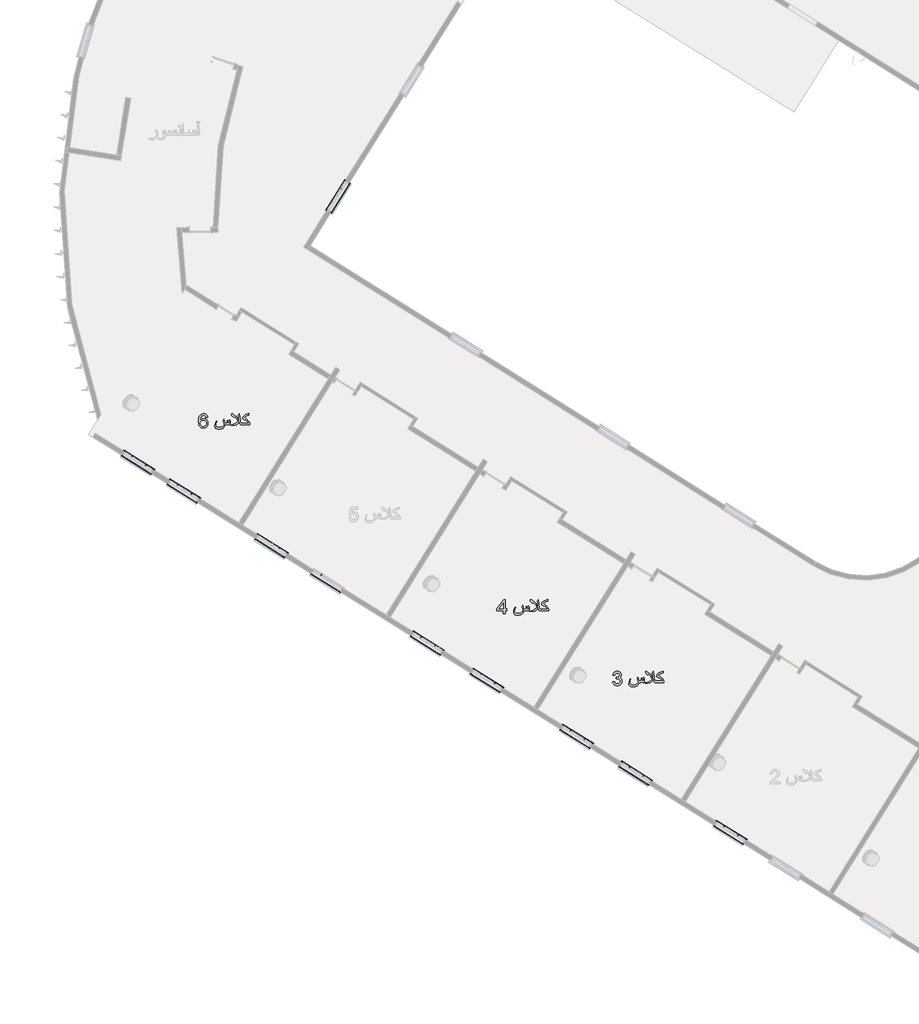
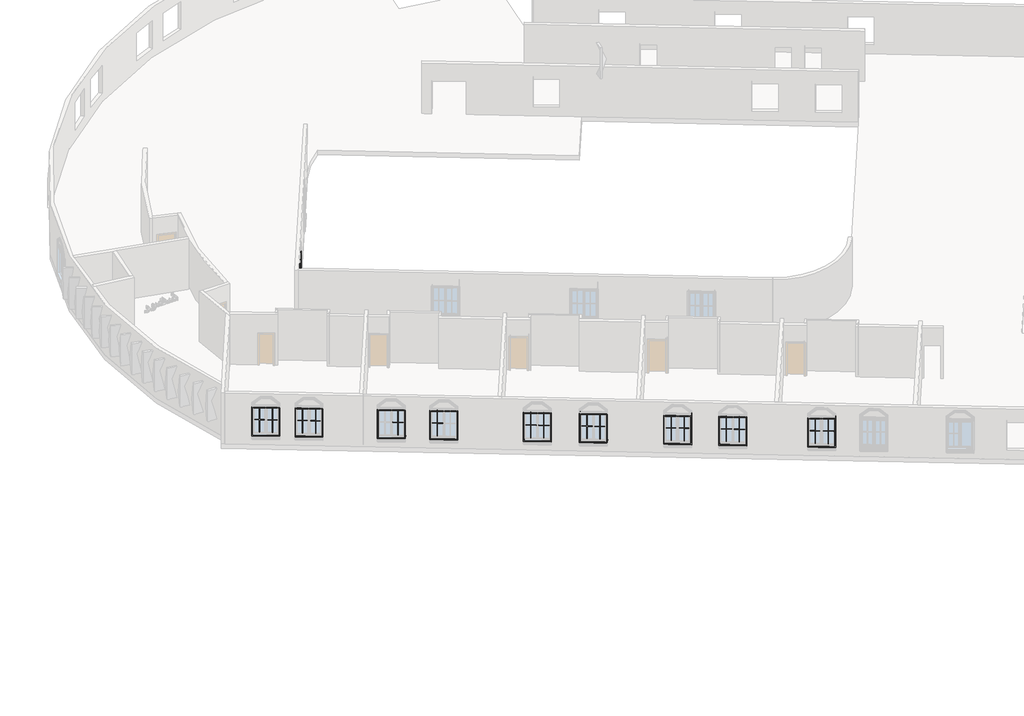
# One storey, part 7 of 12: 40 proxies.
"""IFC4 building model written with IfcOpenShell, lengths in millimetres."""

from ifc_helpers import new_model, si_unit, origin, origin_with_axes, place, context, project, spatial, polyline, outline, extrude, transform, mapped, element, save
from components import m_muntin_pattern_2x2_m_muntin_pattern_2x2_d2d4b859, m_muntin_pattern_2x2_m_muntin_pattern_2x2_f3921bb5, m_trim_window_exterior_flat_with_sill_136e302d, m_trim_window_exterior_flat_with_sill_88aaac3a, m_trim_window_interior_flat_picture_frame_c6c50358, m_trim_window_interior_flat_picture_frame_896fcfd1

model = new_model("IFC4")

# Units and contexts
model_context = context("Model", 3, world=origin())
ifc_project = project(units=[si_unit("LENGTHUNIT", "METRE", prefix="MILLI")], contexts=[model_context])

# Site, building, storey
site = spatial("IfcSite", under=ifc_project)
building = spatial("IfcBuilding", under=site)
storey = spatial("IfcBuildingStorey", under=building, Name="\u200fهمکف", Elevation=0.0)

# Proxies
placement = place(None, origin())
element("IfcBuildingElementProxy", 1, Name="600mm Arial", ObjectType="600mm Arial", at=placement, inside=storey, context=model_context, shape_type="SweptSolid", body=[
    extrude(outline(polyline([(26595.1869215, -54474.9039445), (26670.5291541, -54465.4861654), (26687.3965436, -54512.8325782), (26698.7686958, -54530.7392343), (26712.0998196, -54544.8015236), (26727.6934176, -54555.4241162), (26745.8529926, -54563.0116823), (26766.5785445, -54567.564222), (26789.8700733, -54569.0817353), (26817.1669174, -54566.9940049), (26841.5207055, -54560.730814), (26862.9314376, -54550.2921624), (26881.3991137, -54535.6780501), (26896.2707434, -54517.9829261), (26906.893336, -54498.3012394), (26913.2668916, -54476.6329899), (26915.3914101, -54452.9781776), (26913.2852857, -54430.4500039), (26906.9669124, -54409.9543782), (26896.4362903, -54391.4913006), (26881.6934193, -54375.060771), (26863.7039898, -54361.5732974), (26843.4336918, -54351.9393876), (26820.8825255, -54346.1590418), (26796.0504909, -54344.2322598), (26772.2485258, -54346.292399), (26743.2226364, -54352.4728165), (26751.6103459, -54277.1305839), (26763.6768753, -54278.0135007), (26808.8159961, -54272.6056353), (26849.172651, -54256.3820394), (26865.7825231, -54244.1131748), (26877.6467174, -54228.9380425), (26884.765234, -54210.8566425), (26887.1380729, -54189.8689746), (26885.4182245, -54172.8314397), (26880.2586796, -54157.3298122), (26871.6594379, -54143.3640919), (26859.6204996, -54130.934279), (26844.8684316, -54120.7301522), (26828.1298008, -54113.4414901), (26788.692851, -54107.6105605), (26768.0362769, -54109.0820885), (26749.1823247, -54113.4966724), (26732.1309942, -54120.8543123), (26716.8822855, -54131.1550082), (26703.8132776, -54144.39876), (26693.3010496, -54160.5855678), (26685.3456015, -54179.7154316), (26679.9469332, -54201.7883513), (26604.6047006, -54192.3705722), (26613.535036, -54156.4009101), (26626.7879849, -54124.7170733), (26644.3635472, -54097.3190617), (26666.261723, -54074.2068753), (26691.7927334, -54055.8587608), (26720.2667999, -54042.7529648), (26751.6839223, -54034.8894871), (26786.0441006, -54032.2683279), (26833.4089075, -54037.4370699), (26876.9109534, -54052.943296), (26913.5887883, -54077.4074487), (26940.4809622, -54109.4499705), (26956.9804697, -54146.3669287), (26962.4803055, -54185.4543907), (26957.2563812, -54221.8747082), (26941.5846082, -54254.9105114), (26915.6857157, -54283.053484), (26879.780433, -54304.7953099), (26904.8883791, -54312.6495905), (26926.9429048, -54323.8515973), (26945.9440098, -54338.4013302), (26961.8916943, -54356.2987892), (26974.5100467, -54377.1025161), (26983.5231556, -54400.3710523), (26988.9310209, -54426.1043978), (26990.7336427, -54454.3025528), (26987.1283992, -54492.5254921), (26976.3126685, -54527.731799), (26958.2864507, -54559.9214736), (26933.0497459, -54589.0945158), (26902.3040081, -54613.3011511), (26867.7506917, -54630.5916049), (26829.3897967, -54640.9658771), (26787.221323, -54644.4239679), (26749.1087483, -54641.4717149), (26714.3806879, -54632.6149558), (26683.037142, -54617.8536908), (26655.0781103, -54597.1879197), (26631.6348302, -54571.8316532), (26613.8385387, -54542.9989018), (26601.6892358, -54510.6896656), (26595.1869215, -54474.9039445)])), origin_with_axes(), (0.0, 0.0, 1.0), 150.0),
    extrude(outline(polyline([(27941.9293294, -54512.5750608), (27910.2914779, -54512.5750608), (27887.629947, -54510.8828036), (27867.911472, -54505.8060321), (27849.5173723, -54497.0504406), (27830.8289669, -54484.3217236), (27814.9364647, -54497.3447462), (27800.8097961, -54505.2174209), (27777.8171714, -54510.7356508), (27746.216108, -54512.5750608), (27697.0670735, -54512.5750608), (27692.5421249, -54549.4368367), (27678.9672793, -54585.268543), (27665.7235275, -54606.9643837), (27649.3895669, -54626.2873855), (27629.9653975, -54643.2375484), (27607.4510194, -54657.8148725), (27575.3165272, -54672.5577434), (27539.3928503, -54683.0883656), (27499.6799889, -54689.4067388), (27456.177943, -54691.5128633), (27417.4675601, -54689.7102415), (27383.5948254, -54684.3023761), (27354.5597389, -54675.2892673), (27330.3623007, -54662.6709148), (27309.5033915, -54644.6722882), (27294.6041707, -54622.4614128), (27285.6646382, -54596.0382885), (27282.6847941, -54565.4029153), (27284.7633274, -54529.8471205), (27290.9989272, -54493.813079), (27313.7340345, -54420.8988676), (27343.9003581, -54352.4728165), (27358.0270267, -54359.8304564), (27334.2066675, -54412.0513056), (27320.1351812, -54451.8745316), (27313.2373938, -54484.1193885), (27310.9381313, -54513.6051304), (27313.2695835, -54537.1955633), (27320.2639399, -54557.787758), (27331.9212006, -54575.3817144), (27348.2413656, -54589.9774326), (27368.874947, -54601.4369567), (27393.4724569, -54609.6223311), (27422.0338953, -54614.5335558), (27454.5592622, -54616.1706306), (27493.9410298, -54614.4047971), (27531.1522936, -54609.1072963), (27566.1930537, -54600.2781284), (27599.0633099, -54587.9172934), (27633.6993998, -54568.667868), (27658.439464, -54545.9419578), (27673.2835025, -54519.7395627), (27678.2315153, -54490.0606827), (27674.5894836, -54448.8946874), (27663.6633883, -54409.8624077), (27649.7942371, -54380.5054245), (27631.1426199, -54352.4728165), (27664.1048467, -54277.1305839), (27678.9672793, -54309.0259529), (27688.2379056, -54337.0217727), (27694.8597815, -54380.3950599), (27697.0670735, -54437.2328282), (27746.6575664, -54437.2328282), (27779.3622758, -54434.1794076), (27800.9569489, -54425.0191459), (27811.5519504, -54411.5546649), (27815.0836175, -54392.3512248), (27813.8328187, -54367.6295547), (27810.0804224, -54340.2591343), (27824.207091, -54314.8017002), (27830.8289669, -54356.2987892), (27841.4975448, -54392.3512248), (27855.2563314, -54416.6314365), (27875.7105703, -54432.0824803), (27903.2281436, -54437.2328282), (27911.6894294, -54435.6877238), (27917.9434234, -54431.0524107), (27923.0937713, -54415.4542141), (27919.9299861, -54393.2341416), (27910.4386307, -54369.5425411), (27885.422655, -54333.6372583), (27908.9671027, -54286.548363), (27932.805856, -54331.4299664), (27939.6484611, -54364.5761341), (27941.9293294, -54409.8624077), (27941.9293294, -54512.5750608)])), origin_with_axes(), (0.0, 0.0, 1.0), 150.0),
    extrude(outline(polyline([(28770.6938882, -54512.5750608), (28441.0716205, -54512.5750608), (28412.8182833, -54512.3862843), (28396.7970224, -54510.3309806), (28381.1068553, -54503.5987401), (28367.21931, -54492.3783393), (28355.1343864, -54476.6697781), (28343.4173449, -54452.1780342), (28335.0480295, -54422.1128782), (28330.0264403, -54386.4743099), (28328.3525772, -54345.2623294), (28326.8074728, -54328.2661812), (28325.2623684, -54314.8017002), (28289.0995683, -54403.093379), (28272.5908638, -54434.8783834), (28257.1306229, -54458.4228311), (28237.6420742, -54479.2541491), (28214.4930997, -54496.2778884), (28187.6836993, -54509.4940491), (28157.213873, -54518.9026311), (28083.0120746, -54528.283622), (27970.1826667, -54531.410619), (27970.1826667, -54521.9928399), (28063.0360823, -54492.6358567), (28128.813383, -54467.5463046), (28168.4158798, -54448.5268054), (28202.9048168, -54428.1093547), (28232.2801941, -54406.2939524), (28256.5420117, -54383.0805985), (28279.5898187, -54352.9694572), (28296.052538, -54320.1727773), (28305.9301696, -54284.6905589), (28309.2227134, -54246.5228019), (28307.0338156, -54209.661026), (28300.4671219, -54175.3008476), (28276.2604867, -54107.6105605), (28298.4805592, -54069.6451386), (28323.349382, -54032.2683279), (28343.5093154, -54153.9636919), (28356.3116088, -54250.6430802), (28370.5854302, -54352.7671221), (28380.3343031, -54394.9999751), (28393.9827251, -54423.1061596), (28404.3202092, -54433.701161), (28414.7312696, -54437.2328282), (28441.0716205, -54437.2328282), (28728.3138823, -54437.2328282), (28697.283036, -54398.292519), (28662.1686996, -54364.7600751), (28618.4827127, -54332.6991593), (28561.7369149, -54298.173434), (28548.1988575, -54310.3871162), (28496.5482254, -54274.9232919), (28476.1307746, -54256.8234978), (28469.3249577, -54243.1382875), (28471.5046586, -54210.0656962), (28478.043761, -54180.7455011), (28488.9422651, -54155.1777025), (28504.2001709, -54133.3623002), (28523.3208376, -54115.5660087), (28548.3092221, -54098.671028), (28579.1653244, -54082.6773583), (28615.8891446, -54067.5849994), (28733.0227719, -54022.8505488), (28733.0227719, -54098.1927814), (28647.9684546, -54125.7103547), (28565.7100405, -54155.1409143), (28535.8012343, -54170.0769233), (28525.8316322, -54181.0398067), (28532.3063553, -54192.517725), (28551.7305247, -54208.9988384), (28584.3984458, -54232.5432861), (28641.9351899, -54278.7860529), (28691.5256828, -54327.1625352), (28735.9658278, -54381.2411885), (28770.6938882, -54437.2328282), (28770.6938882, -54512.5750608)])), origin_with_axes(), (0.0, 0.0, 1.0), 150.0),
    extrude(outline(polyline([(28262.4281236, -54296.2604476), (28261.6187833, -54310.0192343), (28257.4249285, -54324.2194793), (28230.1648727, -54273.2310347), (28192.236239, -54220.6239094), (28169.5931022, -54194.8077904), (28149.4883511, -54176.3677054), (28131.9219859, -54165.3036544), (28116.8940064, -54161.6156374), (28111.0078944, -54164.2827819), (28105.1217825, -54172.2842153), (28098.757424, -54180.2856487), (28091.4365723, -54182.9527931), (28077.7881503, -54179.3475496), (28058.0328871, -54168.5318189), (28032.2811475, -54148.997285), (28012.1212141, -54126.5932715), (27994.7939722, -54093.3735273), (27989.0182248, -54058.1672204), (27993.0281386, -54038.743051), (27998.0405308, -54033.8870087), (28005.0578798, -54032.2683279), (28021.2354906, -54034.5767874), (28041.3678327, -54041.502166), (28093.4967115, -54069.2036802), (28155.3008866, -54113.6806134), (28206.2157548, -54165.0001518), (28230.8086662, -54198.3670487), (28248.3750314, -54231.3660637), (28258.9148506, -54263.9971967), (28262.4281236, -54296.2604476)])), origin_with_axes(), (0.0, 0.0, 1.0), 150.0),
])
element("IfcBuildingElementProxy", 2, Name="600mm Arial", ObjectType="600mm Arial", at=placement, inside=storey, context=model_context, shape_type="SweptSolid", body=[
    extrude(outline(polyline([(21942.9438695, -51587.045303), (21942.9438695, -51445.7786168), (21669.8282763, -51445.7786168), (21669.8282763, -51370.4363842), (21961.7794277, -50993.7252212), (22018.2861021, -50993.7252212), (22018.2861021, -51370.4363842), (22093.6283348, -51370.4363842), (22093.6283348, -51445.7786168), (22018.2861021, -51445.7786168), (22018.2861021, -51587.045303), (21942.9438695, -51587.045303)]), holes=[polyline([(21942.9438695, -51370.4363842), (21942.9438695, -51137.6406577), (21762.5345391, -51370.4363842), (21942.9438695, -51370.4363842)])]), origin_with_axes(), (0.0, 0.0, 1.0), 150.0),
    extrude(outline(polyline([(23044.8240215, -51464.614175), (23013.1861699, -51464.614175), (22990.524639, -51462.9219178), (22970.8061641, -51457.8451463), (22952.4120643, -51449.0895548), (22933.7236589, -51436.3608378), (22917.8311568, -51449.3838604), (22903.7044881, -51457.2565351), (22880.7118634, -51462.774765), (22849.1108001, -51464.614175), (22799.9617655, -51464.614175), (22795.436817, -51501.4759509), (22781.8619713, -51537.3076572), (22768.6182195, -51559.0034979), (22752.2842589, -51578.3264997), (22732.8600896, -51595.2766626), (22710.3457115, -51609.8539867), (22678.2112192, -51624.5968576), (22642.2875424, -51635.1274798), (22602.574681, -51641.445853), (22559.0726351, -51643.5519774), (22520.3622521, -51641.7493557), (22486.4895174, -51636.3414903), (22457.4544309, -51627.3283815), (22433.2569927, -51614.710029), (22412.3980836, -51596.7114024), (22397.4988628, -51574.500527), (22388.5593303, -51548.0774026), (22385.5794861, -51517.4420295), (22387.6580194, -51481.8862347), (22393.8936192, -51445.8521932), (22416.6287265, -51372.9379818), (22446.7950501, -51304.5119307), (22460.9217187, -51311.8695706), (22437.1013596, -51364.0904198), (22423.0298732, -51403.9136458), (22416.1320858, -51436.1585027), (22413.8328234, -51465.6442446), (22416.1642755, -51489.2346775), (22423.1586319, -51509.8268722), (22434.8158927, -51527.4208286), (22451.1360577, -51542.0165468), (22471.7696391, -51553.4760709), (22496.367149, -51561.6614453), (22524.9285874, -51566.57267), (22557.4539543, -51568.2097448), (22596.8357219, -51566.4439113), (22634.0469857, -51561.1464105), (22669.0877457, -51552.3172426), (22701.958002, -51539.9564076), (22736.5940918, -51520.7069822), (22761.334156, -51497.981072), (22776.1781945, -51471.7786768), (22781.1262073, -51442.0997969), (22777.4841756, -51400.9338016), (22766.5580803, -51361.9015219), (22752.6889291, -51332.5445387), (22734.037312, -51304.5119307), (22766.9995387, -51229.1696981), (22781.8619713, -51261.0650671), (22791.1325976, -51289.0608869), (22797.7544735, -51332.4341741), (22799.9617655, -51389.2719424), (22849.5522584, -51389.2719424), (22882.2569678, -51386.2185218), (22903.8516409, -51377.0582601), (22914.4466424, -51363.5937791), (22917.9783095, -51344.390339), (22916.7275108, -51319.6686689), (22912.9751144, -51292.2982485), (22927.101783, -51266.8408144), (22933.7236589, -51308.3379034), (22944.3922368, -51344.390339), (22958.1510234, -51368.6705506), (22978.6052624, -51384.1215944), (23006.1228356, -51389.2719424), (23014.5841215, -51387.726838), (23020.8381154, -51383.0915249), (23025.9884633, -51367.4933283), (23022.8246782, -51345.2732558), (23013.3333227, -51321.5816553), (22988.317347, -51285.6763725), (23011.8617947, -51238.5874772), (23035.700548, -51283.4690806), (23042.5431531, -51316.6152483), (23044.8240215, -51361.9015219), (23044.8240215, -51464.614175)])), origin_with_axes(), (0.0, 0.0, 1.0), 150.0),
    extrude(outline(polyline([(23873.5885802, -51464.614175), (23543.9663125, -51464.614175), (23515.7129753, -51464.4253985), (23499.6917144, -51462.3700948), (23484.0015473, -51455.6378543), (23470.114002, -51444.4174535), (23458.0290785, -51428.7088923), (23446.3120369, -51404.2171484), (23437.9427215, -51374.1519924), (23432.9211323, -51338.5134241), (23431.2472692, -51297.3014436), (23429.7021648, -51280.3052954), (23428.1570605, -51266.8408144), (23391.9942603, -51355.1324932), (23375.4855558, -51386.9174976), (23360.025315, -51410.4619453), (23340.5367663, -51431.2932633), (23317.3877917, -51448.3170026), (23290.5783913, -51461.5331633), (23260.1085651, -51470.9417453), (23185.9067666, -51480.3227362), (23073.0773587, -51483.4497331), (23073.0773587, -51474.0319541), (23165.9307743, -51444.6749709), (23231.708075, -51419.5854188), (23271.3105718, -51400.5659196), (23305.7995089, -51380.1484689), (23335.1748862, -51358.3330666), (23359.4367038, -51335.1197127), (23382.4845108, -51305.0085714), (23398.94723, -51272.2118915), (23408.8248616, -51236.7296731), (23412.1174055, -51198.5619161), (23409.9285076, -51161.7001402), (23403.361814, -51127.3399618), (23379.1551787, -51059.6496747), (23401.3752512, -51021.6842528), (23426.2440741, -50984.3074421), (23446.4040074, -51106.0028061), (23459.2063009, -51202.6821944), (23473.4801223, -51304.8062363), (23483.2289951, -51347.0390893), (23496.8774172, -51375.1452738), (23507.2149012, -51385.7402752), (23517.6259617, -51389.2719424), (23543.9663125, -51389.2719424), (23831.2085744, -51389.2719424), (23800.1777281, -51350.3316332), (23765.0633916, -51316.7991893), (23721.3774047, -51284.7382734), (23664.631607, -51250.2125482), (23651.0935495, -51262.4262304), (23599.4429174, -51226.9624061), (23579.0254667, -51208.8626119), (23572.2196498, -51195.1774017), (23574.3993506, -51162.1048104), (23580.9384531, -51132.7846153), (23591.8369572, -51107.2168167), (23607.0948629, -51085.4014144), (23626.2155296, -51067.6051228), (23651.2039141, -51050.7101422), (23682.0600165, -51034.7164725), (23718.7838367, -51019.6241136), (23835.9174639, -50974.889663), (23835.9174639, -51050.2318956), (23750.8631466, -51077.7494689), (23668.6047325, -51107.1800285), (23638.6959263, -51122.1160375), (23628.7263242, -51133.0789209), (23635.2010473, -51144.5568392), (23654.6252167, -51161.0379526), (23687.2931379, -51184.5824003), (23744.8298819, -51230.8251671), (23794.4203749, -51279.2016494), (23838.8605199, -51333.2803027), (23873.5885802, -51389.2719424), (23873.5885802, -51464.614175)])), origin_with_axes(), (0.0, 0.0, 1.0), 150.0),
    extrude(outline(polyline([(23365.3228157, -51248.2995618), (23364.5134753, -51262.0583484), (23360.3196206, -51276.2585935), (23333.0595647, -51225.2701489), (23295.130931, -51172.6630236), (23272.4877942, -51146.8469046), (23252.3830432, -51128.4068196), (23234.8166779, -51117.3427686), (23219.7886984, -51113.6547516), (23213.9025865, -51116.3218961), (23208.0164745, -51124.3233295), (23201.652116, -51132.3247628), (23194.3312643, -51134.9919073), (23180.6828423, -51131.3866638), (23160.9275792, -51120.5709331), (23135.1758395, -51101.0363992), (23115.0159062, -51078.6323857), (23097.6886642, -51045.4126415), (23091.9129169, -51010.2063345), (23095.9228306, -50990.7821652), (23100.9352228, -50985.9261229), (23107.9525719, -50984.3074421), (23124.1301826, -50986.6159016), (23144.2625248, -50993.5412802), (23196.3914035, -51021.2427944), (23258.1955787, -51065.7197276), (23309.1104468, -51117.0392659), (23333.7033582, -51150.4061629), (23351.2697235, -51183.4051779), (23361.8095426, -51216.0363109), (23365.3228157, -51248.2995618)])), origin_with_axes(), (0.0, 0.0, 1.0), 150.0),
])
element("IfcBuildingElementProxy", 3, Name="600mm Arial", ObjectType="600mm Arial", at=placement, inside=storey, context=model_context, shape_type="SweptSolid", body=[
    extrude(outline(polyline([(9373.7336221, -43233.4022448), (9298.3913895, -43242.8200239), (9286.2512837, -43205.4800014), (9269.8437467, -43179.9857791), (9253.6477418, -43166.2729777), (9235.6675093, -43156.4781196), (9215.9030491, -43150.6012047), (9194.3543613, -43148.6422331), (9159.3319953, -43153.2039699), (9126.3697686, -43166.8891801), (9098.061249, -43195.7127344), (9074.9398656, -43235.3888076), (9065.9037641, -43260.6944903), (9059.3232749, -43291.509206), (9053.5291335, -43369.6657358), (9083.7506394, -43334.4042466), (9119.9686218, -43309.5538178), (9160.1597298, -43294.8201439), (9202.3006124, -43289.9089193), (9238.5002007, -43293.2658425), (9271.9038859, -43303.3366121), (9302.5116679, -43320.1212281), (9330.3235467, -43343.6196906), (9353.435733, -43372.4340478), (9369.9444376, -43405.1663484), (9379.8496603, -43441.8165921), (9383.1514012, -43482.3847791), (9381.5970998, -43509.8517686), (9376.9341955, -43536.3346737), (9369.1626883, -43561.8334945), (9358.2825783, -43586.348231), (9344.6801415, -43608.9637766), (9328.7416541, -43628.765025), (9310.467116, -43645.7519762), (9289.8565272, -43659.92463), (9267.3513462, -43671.0944471), (9243.3930312, -43679.0728879), (9217.9815824, -43683.8599523), (9191.1169997, -43685.4556405), (9146.2032066, -43681.2249975), (9105.6396181, -43668.5330687), (9069.4262342, -43647.379854), (9037.5630549, -43617.7653534), (9011.5859875, -43578.4387681), (8993.0309394, -43528.1492993), (8981.8979105, -43466.8969472), (8978.1869009, -43394.6817115), (8982.3071792, -43313.7200814), (8994.6680143, -43244.6226457), (9015.269406, -43187.3894043), (9028.6603106, -43163.2218564), (9044.1113544, -43142.0203572), (9075.372127, -43111.9552012), (9111.6177006, -43090.4800897), (9152.8480752, -43077.5950228), (9199.0632508, -43073.3000005), (9233.76372, -43075.9579479), (9265.1716453, -43083.9317902), (9293.2870268, -43097.2215272), (9318.1098644, -43115.8271592), (9338.9687736, -43139.1232865), (9355.1923696, -43166.4845099), (9366.7806524, -43197.9108293), (9373.7336221, -43233.4022448)]), holes=[polyline([(9053.5291335, -43481.2075568), (9057.8885352, -43514.5928478), (9070.9667401, -43546.4698227), (9091.2738262, -43573.8770313), (9117.3198715, -43593.8530237), (9148.755388, -43606.0483118), (9185.2308878, -43610.1134079), (9211.4194873, -43608.0072835), (9234.9501394, -43601.6889102), (9255.8228441, -43591.1582881), (9274.0376014, -43576.4154171), (9288.8126621, -43558.0581056), (9299.3662768, -43536.6841616), (9305.6984456, -43512.2935854), (9307.8091686, -43484.8863767), (9305.7260368, -43458.5506244), (9299.4766414, -43435.1671251), (9289.0609824, -43414.7358788), (9274.4790598, -43397.2568855), (9256.2091202, -43383.254377), (9234.7294102, -43373.2525853), (9210.0399298, -43367.2515102), (9182.140679, -43365.2511519), (9156.3015674, -43367.2515102), (9132.4950038, -43373.2525853), (9110.7209882, -43383.254377), (9090.9795206, -43397.2568855), (9074.5949763, -43414.5059525), (9062.8917303, -43434.2474201), (9055.8697827, -43456.4812882), (9053.5291335, -43481.2075568)])]), origin_with_axes(), (0.0, 0.0, 1.0), 150.0),
    extrude(outline(polyline([(10334.3470879, -43553.6067334), (10302.7092363, -43553.6067334), (10280.0477054, -43551.9144762), (10260.3292305, -43546.8377047), (10241.9351307, -43538.0821132), (10223.2467254, -43525.3533962), (10207.3542232, -43538.3764188), (10193.2275546, -43546.2490935), (10170.2349299, -43551.7673234), (10138.6338665, -43553.6067334), (10089.4848319, -43553.6067334), (10084.9598834, -43590.4685093), (10071.3850378, -43626.3002157), (10058.1412859, -43647.9960563), (10041.8073254, -43667.3190581), (10022.383156, -43684.2692211), (9999.8687779, -43698.8465451), (9967.7342856, -43713.5894161), (9931.8106088, -43724.1200382), (9892.0977474, -43730.4384114), (9848.5957015, -43732.5445359), (9809.8853185, -43730.7419141), (9776.0125838, -43725.3340488), (9746.9774974, -43716.3209399), (9722.7800591, -43703.7025874), (9701.92115, -43685.7039608), (9687.0219292, -43663.4930854), (9678.0823967, -43637.0699611), (9675.1025526, -43606.4345879), (9677.1810858, -43570.8787931), (9683.4166857, -43534.8447517), (9706.151793, -43461.9305402), (9736.3181166, -43393.5044891), (9750.4447852, -43400.862129), (9726.624426, -43453.0829782), (9712.5529397, -43492.9062042), (9705.6551523, -43525.1510611), (9703.3558898, -43554.636803), (9705.6873419, -43578.2272359), (9712.6816984, -43598.8194306), (9724.3389591, -43616.413387), (9740.6591241, -43631.0091052), (9761.2927055, -43642.4686293), (9785.8902154, -43650.6540037), (9814.4516538, -43655.5652284), (9846.9770207, -43657.2023033), (9886.3587883, -43655.4364697), (9923.5700521, -43650.1389689), (9958.6108121, -43641.3098011), (9991.4810684, -43628.948966), (10026.1171583, -43609.6995406), (10050.8572224, -43586.9736304), (10065.7012609, -43560.7712353), (10070.6492738, -43531.0923553), (10067.007242, -43489.92636), (10056.0811468, -43450.8940804), (10042.2119956, -43421.5370971), (10023.5603784, -43393.5044891), (10056.5226052, -43318.1622565), (10071.3850378, -43350.0576255), (10080.655664, -43378.0534453), (10087.27754, -43421.4267325), (10089.4848319, -43478.2645008), (10139.0753249, -43478.2645008), (10171.7800343, -43475.2110802), (10193.3747074, -43466.0508186), (10203.9697088, -43452.5863375), (10207.501376, -43433.3828974), (10206.2505772, -43408.6612273), (10202.4981809, -43381.2908069), (10216.6248495, -43355.8333728), (10223.2467254, -43397.3304619), (10233.9153032, -43433.3828974), (10247.6740899, -43457.6631091), (10268.1283288, -43473.1141529), (10295.645902, -43478.2645008), (10304.1071879, -43476.7193964), (10310.3611818, -43472.0840833), (10315.5115298, -43456.4858867), (10312.3477446, -43434.2658142), (10302.8563891, -43410.5742137), (10277.8404135, -43374.668931), (10301.3848612, -43327.5800356), (10325.2236144, -43372.461639), (10332.0662196, -43405.6078068), (10334.3470879, -43450.8940804), (10334.3470879, -43553.6067334)])), origin_with_axes(), (0.0, 0.0, 1.0), 150.0),
    extrude(outline(polyline([(11163.1116467, -43553.6067334), (10833.489379, -43553.6067334), (10805.2360417, -43553.417957), (10789.2147809, -43551.3626532), (10773.5246138, -43544.6304127), (10759.6370684, -43533.4100119), (10747.5521449, -43517.7014507), (10735.8351034, -43493.2097069), (10727.465788, -43463.1445508), (10722.4441987, -43427.5059825), (10720.7703357, -43386.294002), (10719.2252313, -43369.2978538), (10717.6801269, -43355.8333728), (10681.5173268, -43444.1250517), (10665.0086222, -43475.910056), (10649.5483814, -43499.4545037), (10630.0598327, -43520.2858217), (10606.9108582, -43537.309561), (10580.1014578, -43550.5257217), (10549.6316315, -43559.9343037), (10475.4298331, -43569.3152946), (10362.6004252, -43572.4422916), (10362.6004252, -43563.0245125), (10455.4538407, -43533.6675293), (10521.2311415, -43508.5779772), (10560.8336383, -43489.5584781), (10595.3225753, -43469.1410273), (10624.6979526, -43447.325625), (10648.9597702, -43424.1122711), (10672.0075772, -43394.0011298), (10688.4702965, -43361.2044499), (10698.3479281, -43325.7222315), (10701.6404719, -43287.5544745), (10699.451574, -43250.6926986), (10692.8848804, -43216.3325202), (10668.6782451, -43148.6422331), (10690.8983176, -43110.6768112), (10715.7671405, -43073.3000005), (10735.9270739, -43194.9953645), (10748.7293673, -43291.6747528), (10763.0031887, -43393.7987947), (10772.7520616, -43436.0316478), (10786.4004836, -43464.1378322), (10796.7379677, -43474.7328336), (10807.1490281, -43478.2645008), (10833.489379, -43478.2645008), (11120.7316408, -43478.2645008), (11089.7007945, -43439.3241916), (11054.5864581, -43405.7917478), (11010.9004712, -43373.7308319), (10954.1546734, -43339.2051066), (10940.616616, -43351.4187889), (10888.9659839, -43315.9549645), (10868.5485331, -43297.8551704), (10861.7427162, -43284.1699601), (10863.922417, -43251.0973688), (10870.4615195, -43221.7771738), (10881.3600236, -43196.2093751), (10896.6179294, -43174.3939728), (10915.7385961, -43156.5976813), (10940.7269806, -43139.7027006), (10971.5830829, -43123.7090309), (11008.3069031, -43108.616672), (11125.4405304, -43063.8822214), (11125.4405304, -43139.224454), (11040.3862131, -43166.7420273), (10958.1277989, -43196.1725869), (10928.2189927, -43211.1085959), (10918.2493907, -43222.0714794), (10924.7241138, -43233.5493976), (10944.1482831, -43250.030511), (10976.8162043, -43273.5749587), (11034.3529483, -43319.8177255), (11083.9434413, -43368.1942078), (11128.3835863, -43422.2728611), (11163.1116467, -43478.2645008), (11163.1116467, -43553.6067334)])), origin_with_axes(), (0.0, 0.0, 1.0), 150.0),
    extrude(outline(polyline([(10654.8458821, -43337.2921203), (10654.0365417, -43351.0509069), (10649.842687, -43365.2511519), (10622.5826311, -43314.2627074), (10584.6539974, -43261.655582), (10562.0108606, -43235.839463), (10541.9061096, -43217.399378), (10524.3397443, -43206.335327), (10509.3117648, -43202.64731), (10503.4256529, -43205.3144545), (10497.539541, -43213.3158879), (10491.1751825, -43221.3173213), (10483.8543308, -43223.9844657), (10470.2059087, -43220.3792222), (10450.4506456, -43209.5634915), (10424.6989059, -43190.0289576), (10404.5389726, -43167.6249441), (10387.2117306, -43134.4051999), (10381.4359833, -43099.198893), (10385.4458971, -43079.7747236), (10390.4582892, -43074.9186813), (10397.4756383, -43073.3000005), (10413.653249, -43075.60846), (10433.7855912, -43082.5338386), (10485.9144699, -43110.2353528), (10547.7186451, -43154.712286), (10598.6335133, -43206.0318244), (10623.2264246, -43239.3987213), (10640.7927899, -43272.3977363), (10651.3326091, -43305.0288693), (10654.8458821, -43337.2921203)])), origin_with_axes(), (0.0, 0.0, 1.0), 150.0),
])
m_muntin_pattern_2x2_m_muntin_pattern_2x2_shape = m_muntin_pattern_2x2_m_muntin_pattern_2x2_d2d4b859(model_context)
element("IfcBuildingElementProxy", 4, Name="M_Muntin Pattern_2x2 : M_Muntin Pattern_2x2", ObjectType="M_Muntin Pattern_2x2 : M_Muntin Pattern_2x2", at=placement, inside=storey, context=model_context, shape_type="MappedRepresentation", body=[
    mapped(m_muntin_pattern_2x2_m_muntin_pattern_2x2_shape, transform((6148.6329445, -44887.3965533, 669.85), x_axis=(0.8480480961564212, -0.5299192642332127, 0.0), y_axis=(0.5299192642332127, 0.8480480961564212, 0.0), z_axis=(0.0, 0.0, 1.0))),
])
element("IfcBuildingElementProxy", 5, Name="M_Muntin Pattern_2x2 : M_Muntin Pattern_2x2", ObjectType="M_Muntin Pattern_2x2 : M_Muntin Pattern_2x2", at=placement, inside=storey, context=model_context, shape_type="MappedRepresentation", body=[
    mapped(m_muntin_pattern_2x2_m_muntin_pattern_2x2_shape, transform((8099.1435657, -46106.210861, 669.85), x_axis=(0.8480480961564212, -0.5299192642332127, 0.0), y_axis=(0.5299192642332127, 0.8480480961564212, 0.0), z_axis=(0.0, 0.0, 1.0))),
])
element("IfcBuildingElementProxy", 6, Name="M_Muntin Pattern_2x2 : M_Muntin Pattern_2x2", ObjectType="M_Muntin Pattern_2x2 : M_Muntin Pattern_2x2", at=placement, inside=storey, context=model_context, shape_type="MappedRepresentation", body=[
    mapped(m_muntin_pattern_2x2_m_muntin_pattern_2x2_shape, transform((14205.089858, -49921.6295635, 669.85), x_axis=(0.8480480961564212, -0.5299192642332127, 0.0), y_axis=(0.5299192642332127, 0.8480480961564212, 0.0), z_axis=(0.0, 0.0, 1.0))),
])
element("IfcBuildingElementProxy", 7, Name="M_Muntin Pattern_2x2 : M_Muntin Pattern_2x2", ObjectType="M_Muntin Pattern_2x2 : M_Muntin Pattern_2x2", at=placement, inside=storey, context=model_context, shape_type="MappedRepresentation", body=[
    mapped(m_muntin_pattern_2x2_m_muntin_pattern_2x2_shape, transform((18445.3303388, -52571.2258846, 669.85), x_axis=(0.8480480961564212, -0.5299192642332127, 0.0), y_axis=(0.5299192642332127, 0.8480480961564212, 0.0), z_axis=(0.0, 0.0, 1.0))),
])
element("IfcBuildingElementProxy", 8, Name="M_Muntin Pattern_2x2 : M_Muntin Pattern_2x2", ObjectType="M_Muntin Pattern_2x2 : M_Muntin Pattern_2x2", at=placement, inside=storey, context=model_context, shape_type="MappedRepresentation", body=[
    mapped(m_muntin_pattern_2x2_m_muntin_pattern_2x2_shape, transform((20989.4746273, -54160.9836773, 669.85), x_axis=(0.8480480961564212, -0.5299192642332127, 0.0), y_axis=(0.5299192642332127, 0.8480480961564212, 0.0), z_axis=(0.0, 0.0, 1.0))),
])
element("IfcBuildingElementProxy", 9, Name="M_Muntin Pattern_2x2 : M_Muntin Pattern_2x2", ObjectType="M_Muntin Pattern_2x2 : M_Muntin Pattern_2x2", at=placement, inside=storey, context=model_context, shape_type="MappedRepresentation", body=[
    mapped(m_muntin_pattern_2x2_m_muntin_pattern_2x2_shape, transform((24805.69106, -56545.6203664, 669.85), x_axis=(0.8480480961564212, -0.5299192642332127, 0.0), y_axis=(0.5299192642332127, 0.8480480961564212, 0.0), z_axis=(0.0, 0.0, 1.0))),
])
element("IfcBuildingElementProxy", 10, Name="M_Muntin Pattern_2x2 : M_Muntin Pattern_2x2", ObjectType="M_Muntin Pattern_2x2 : M_Muntin Pattern_2x2", at=placement, inside=storey, context=model_context, shape_type="MappedRepresentation", body=[
    mapped(m_muntin_pattern_2x2_m_muntin_pattern_2x2_shape, transform((27307.4329436, -58108.8821959, 669.85), x_axis=(0.8480480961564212, -0.5299192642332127, 0.0), y_axis=(0.5299192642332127, 0.8480480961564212, 0.0), z_axis=(0.0, 0.0, 1.0))),
])
element("IfcBuildingElementProxy", 11, Name="M_Muntin Pattern_2x2 : M_Muntin Pattern_2x2", ObjectType="M_Muntin Pattern_2x2 : M_Muntin Pattern_2x2", at=placement, inside=storey, context=model_context, shape_type="MappedRepresentation", body=[
    mapped(m_muntin_pattern_2x2_m_muntin_pattern_2x2_shape, transform((31335.6614004, -60625.998701, 669.85), x_axis=(0.8480480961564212, -0.5299192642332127, 0.0), y_axis=(0.5299192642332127, 0.8480480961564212, 0.0), z_axis=(0.0, 0.0, 1.0))),
])
element("IfcBuildingElementProxy", 12, Name="M_Muntin Pattern_2x2 : M_Muntin Pattern_2x2", ObjectType="M_Muntin Pattern_2x2 : M_Muntin Pattern_2x2", at=placement, inside=storey, context=model_context, shape_type="MappedRepresentation", body=[
    mapped(m_muntin_pattern_2x2_m_muntin_pattern_2x2_shape, transform((14655.6227945, -34094.2649616, 669.85), x_axis=(0.5299192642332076, 0.8480480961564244, 0.0), y_axis=(-0.8480480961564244, 0.5299192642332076, 0.0), z_axis=(0.0, 0.0, 1.0))),
])
m_muntin_pattern_2x2_m_muntin_pattern_2x2_2_shape = m_muntin_pattern_2x2_m_muntin_pattern_2x2_f3921bb5(model_context)
element("IfcBuildingElementProxy", 13, Name="M_Muntin Pattern_2x2 : M_Muntin Pattern_2x2", ObjectType="M_Muntin Pattern_2x2 : M_Muntin Pattern_2x2", at=placement, inside=storey, context=model_context, shape_type="MappedRepresentation", body=[
    mapped(m_muntin_pattern_2x2_m_muntin_pattern_2x2_2_shape, transform((6739.5740591, -45256.6575446, 669.85), x_axis=(-0.8480480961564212, 0.5299192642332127, 0.0), y_axis=(-0.5299192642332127, -0.8480480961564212, 0.0), z_axis=(0.0, 0.0, 1.0))),
])
element("IfcBuildingElementProxy", 14, Name="M_Muntin Pattern_2x2 : M_Muntin Pattern_2x2", ObjectType="M_Muntin Pattern_2x2 : M_Muntin Pattern_2x2", at=placement, inside=storey, context=model_context, shape_type="MappedRepresentation", body=[
    mapped(m_muntin_pattern_2x2_m_muntin_pattern_2x2_2_shape, transform((8690.0846803, -46475.4718523, 669.85), x_axis=(-0.8480480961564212, 0.5299192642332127, 0.0), y_axis=(-0.5299192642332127, -0.8480480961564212, 0.0), z_axis=(0.0, 0.0, 1.0))),
])
element("IfcBuildingElementProxy", 15, Name="M_Muntin Pattern_2x2 : M_Muntin Pattern_2x2", ObjectType="M_Muntin Pattern_2x2 : M_Muntin Pattern_2x2", at=placement, inside=storey, context=model_context, shape_type="MappedRepresentation", body=[
    mapped(m_muntin_pattern_2x2_m_muntin_pattern_2x2_2_shape, transform((12421.4963034, -48807.1166149, 669.85), x_axis=(-0.8480480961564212, 0.5299192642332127, 0.0), y_axis=(-0.5299192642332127, -0.8480480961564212, 0.0), z_axis=(0.0, 0.0, 1.0))),
])
element("IfcBuildingElementProxy", 16, Name="M_Muntin Pattern_2x2 : M_Muntin Pattern_2x2", ObjectType="M_Muntin Pattern_2x2 : M_Muntin Pattern_2x2", at=placement, inside=storey, context=model_context, shape_type="MappedRepresentation", body=[
    mapped(m_muntin_pattern_2x2_m_muntin_pattern_2x2_2_shape, transform((19036.2714534, -52940.4868759, 669.85), x_axis=(-0.8480480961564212, 0.5299192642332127, 0.0), y_axis=(-0.5299192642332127, -0.8480480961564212, 0.0), z_axis=(0.0, 0.0, 1.0))),
])
element("IfcBuildingElementProxy", 17, Name="M_Muntin Pattern_2x2 : M_Muntin Pattern_2x2", ObjectType="M_Muntin Pattern_2x2 : M_Muntin Pattern_2x2", at=placement, inside=storey, context=model_context, shape_type="MappedRepresentation", body=[
    mapped(m_muntin_pattern_2x2_m_muntin_pattern_2x2_2_shape, transform((21580.4157419, -54530.2446686, 669.85), x_axis=(-0.8480480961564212, 0.5299192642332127, 0.0), y_axis=(-0.5299192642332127, -0.8480480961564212, 0.0), z_axis=(0.0, 0.0, 1.0))),
])
element("IfcBuildingElementProxy", 18, Name="M_Muntin Pattern_2x2 : M_Muntin Pattern_2x2", ObjectType="M_Muntin Pattern_2x2 : M_Muntin Pattern_2x2", at=placement, inside=storey, context=model_context, shape_type="MappedRepresentation", body=[
    mapped(m_muntin_pattern_2x2_m_muntin_pattern_2x2_2_shape, transform((25396.6321746, -56914.8813577, 669.85), x_axis=(-0.8480480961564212, 0.5299192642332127, 0.0), y_axis=(-0.5299192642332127, -0.8480480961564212, 0.0), z_axis=(0.0, 0.0, 1.0))),
])
element("IfcBuildingElementProxy", 19, Name="M_Muntin Pattern_2x2 : M_Muntin Pattern_2x2", ObjectType="M_Muntin Pattern_2x2 : M_Muntin Pattern_2x2", at=placement, inside=storey, context=model_context, shape_type="MappedRepresentation", body=[
    mapped(m_muntin_pattern_2x2_m_muntin_pattern_2x2_2_shape, transform((27898.3740582, -58478.1431872, 669.85), x_axis=(-0.8480480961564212, 0.5299192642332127, 0.0), y_axis=(-0.5299192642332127, -0.8480480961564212, 0.0), z_axis=(0.0, 0.0, 1.0))),
])
element("IfcBuildingElementProxy", 20, Name="M_Muntin Pattern_2x2 : M_Muntin Pattern_2x2", ObjectType="M_Muntin Pattern_2x2 : M_Muntin Pattern_2x2", at=placement, inside=storey, context=model_context, shape_type="MappedRepresentation", body=[
    mapped(m_muntin_pattern_2x2_m_muntin_pattern_2x2_2_shape, transform((31926.602515, -60995.2596923, 669.85), x_axis=(-0.8480480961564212, 0.5299192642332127, 0.0), y_axis=(-0.5299192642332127, -0.8480480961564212, 0.0), z_axis=(0.0, 0.0, 1.0))),
])
element("IfcBuildingElementProxy", 21, Name="M_Muntin Pattern_2x2 : M_Muntin Pattern_2x2", ObjectType="M_Muntin Pattern_2x2 : M_Muntin Pattern_2x2", at=placement, inside=storey, context=model_context, shape_type="MappedRepresentation", body=[
    mapped(m_muntin_pattern_2x2_m_muntin_pattern_2x2_2_shape, transform((15024.8837858, -33503.323847, 669.85), x_axis=(-0.5299192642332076, -0.8480480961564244, 0.0), y_axis=(0.8480480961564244, -0.5299192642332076, 0.0), z_axis=(0.0, 0.0, 1.0))),
])
m_trim_window_exterior_flat_with_sill_shape = m_trim_window_exterior_flat_with_sill_136e302d(model_context)
element("IfcBuildingElementProxy", 22, Name="M_Trim-Window-Exterior-Flat : with Sill", ObjectType="M_Trim-Window-Exterior-Flat : with Sill", at=placement, inside=storey, context=model_context, shape_type="MappedRepresentation", body=[
    mapped(m_trim_window_exterior_flat_with_sill_shape, transform((6449.1509828, -45063.9493908, 2400.0), x_axis=(-0.8480480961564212, 0.5299192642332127, 0.0), y_axis=(0.0, 0.0, 1.0), z_axis=(0.5299192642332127, 0.8480480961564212, 0.0))),
])
element("IfcBuildingElementProxy", 23, Name="M_Trim-Window-Exterior-Flat : with Sill", ObjectType="M_Trim-Window-Exterior-Flat : with Sill", at=placement, inside=storey, context=model_context, shape_type="MappedRepresentation", body=[
    mapped(m_trim_window_exterior_flat_with_sill_shape, transform((8399.661604, -46282.7636985, 2400.0), x_axis=(-0.8480480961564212, 0.5299192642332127, 0.0), y_axis=(0.0, 0.0, 1.0), z_axis=(0.5299192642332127, 0.8480480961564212, 0.0))),
])
element("IfcBuildingElementProxy", 24, Name="M_Trim-Window-Exterior-Flat : with Sill", ObjectType="M_Trim-Window-Exterior-Flat : with Sill", at=placement, inside=storey, context=model_context, shape_type="MappedRepresentation", body=[
    mapped(m_trim_window_exterior_flat_with_sill_shape, transform((12131.0732271, -48614.4084612, 2400.0), x_axis=(-0.8480480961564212, 0.5299192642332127, 0.0), y_axis=(0.0, 0.0, 1.0), z_axis=(0.5299192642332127, 0.8480480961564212, 0.0))),
])
element("IfcBuildingElementProxy", 25, Name="M_Trim-Window-Exterior-Flat : with Sill", ObjectType="M_Trim-Window-Exterior-Flat : with Sill", at=placement, inside=storey, context=model_context, shape_type="MappedRepresentation", body=[
    mapped(m_trim_window_exterior_flat_with_sill_shape, transform((18745.8483771, -52747.7787222, 2400.0), x_axis=(-0.8480480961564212, 0.5299192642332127, 0.0), y_axis=(0.0, 0.0, 1.0), z_axis=(0.5299192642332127, 0.8480480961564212, 0.0))),
])
element("IfcBuildingElementProxy", 26, Name="M_Trim-Window-Exterior-Flat : with Sill", ObjectType="M_Trim-Window-Exterior-Flat : with Sill", at=placement, inside=storey, context=model_context, shape_type="MappedRepresentation", body=[
    mapped(m_trim_window_exterior_flat_with_sill_shape, transform((21289.9926656, -54337.5365149, 2400.0), x_axis=(-0.8480480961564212, 0.5299192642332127, 0.0), y_axis=(0.0, 0.0, 1.0), z_axis=(0.5299192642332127, 0.8480480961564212, 0.0))),
])
element("IfcBuildingElementProxy", 27, Name="M_Trim-Window-Exterior-Flat : with Sill", ObjectType="M_Trim-Window-Exterior-Flat : with Sill", at=placement, inside=storey, context=model_context, shape_type="MappedRepresentation", body=[
    mapped(m_trim_window_exterior_flat_with_sill_shape, transform((25106.2090983, -56722.1732039, 2400.0), x_axis=(-0.8480480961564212, 0.5299192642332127, 0.0), y_axis=(0.0, 0.0, 1.0), z_axis=(0.5299192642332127, 0.8480480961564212, 0.0))),
])
element("IfcBuildingElementProxy", 28, Name="M_Trim-Window-Exterior-Flat : with Sill", ObjectType="M_Trim-Window-Exterior-Flat : with Sill", at=placement, inside=storey, context=model_context, shape_type="MappedRepresentation", body=[
    mapped(m_trim_window_exterior_flat_with_sill_shape, transform((27607.9509819, -58285.4350334, 2400.0), x_axis=(-0.8480480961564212, 0.5299192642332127, 0.0), y_axis=(0.0, 0.0, 1.0), z_axis=(0.5299192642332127, 0.8480480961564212, 0.0))),
])
element("IfcBuildingElementProxy", 29, Name="M_Trim-Window-Exterior-Flat : with Sill", ObjectType="M_Trim-Window-Exterior-Flat : with Sill", at=placement, inside=storey, context=model_context, shape_type="MappedRepresentation", body=[
    mapped(m_trim_window_exterior_flat_with_sill_shape, transform((31636.1794387, -60802.5515385, 2400.0), x_axis=(-0.8480480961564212, 0.5299192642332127, 0.0), y_axis=(0.0, 0.0, 1.0), z_axis=(0.5299192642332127, 0.8480480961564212, 0.0))),
])
m_trim_window_exterior_flat_with_sill_2_shape = m_trim_window_exterior_flat_with_sill_88aaac3a(model_context)
element("IfcBuildingElementProxy", 30, Name="M_Trim-Window-Exterior-Flat : with Sill", ObjectType="M_Trim-Window-Exterior-Flat : with Sill", at=placement, inside=storey, context=model_context, shape_type="MappedRepresentation", body=[
    mapped(m_trim_window_exterior_flat_with_sill_2_shape, transform((14832.175632, -33793.7469233, 2400.0), x_axis=(0.5299192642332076, 0.8480480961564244, 0.0), y_axis=(0.0, 0.0, -1.0), z_axis=(-0.8480480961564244, 0.5299192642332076, 0.0))),
])
m_trim_window_interior_flat_picture_frame_shape = m_trim_window_interior_flat_picture_frame_c6c50358(model_context)
element("IfcBuildingElementProxy", 31, Name="M_Trim-Window-Interior-Flat : Picture Frame", ObjectType="M_Trim-Window-Interior-Flat : Picture Frame", at=placement, inside=storey, context=model_context, shape_type="MappedRepresentation", body=[
    mapped(m_trim_window_interior_flat_picture_frame_shape, transform((6343.16713, -45233.55901, 2400.0), x_axis=(0.8480480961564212, -0.5299192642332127, 0.0), y_axis=(0.0, 0.0, 1.0), z_axis=(-0.5299192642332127, -0.8480480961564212, 0.0))),
])
element("IfcBuildingElementProxy", 32, Name="M_Trim-Window-Interior-Flat : Picture Frame", ObjectType="M_Trim-Window-Interior-Flat : Picture Frame", at=placement, inside=storey, context=model_context, shape_type="MappedRepresentation", body=[
    mapped(m_trim_window_interior_flat_picture_frame_shape, transform((8293.6777511, -46452.3733178, 2400.0), x_axis=(0.8480480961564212, -0.5299192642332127, 0.0), y_axis=(0.0, 0.0, 1.0), z_axis=(-0.5299192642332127, -0.8480480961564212, 0.0))),
])
element("IfcBuildingElementProxy", 33, Name="M_Trim-Window-Interior-Flat : Picture Frame", ObjectType="M_Trim-Window-Interior-Flat : Picture Frame", at=placement, inside=storey, context=model_context, shape_type="MappedRepresentation", body=[
    mapped(m_trim_window_interior_flat_picture_frame_shape, transform((12025.0893742, -48784.0180804, 2400.0), x_axis=(0.8480480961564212, -0.5299192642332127, 0.0), y_axis=(0.0, 0.0, 1.0), z_axis=(-0.5299192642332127, -0.8480480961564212, 0.0))),
])
element("IfcBuildingElementProxy", 34, Name="M_Trim-Window-Interior-Flat : Picture Frame", ObjectType="M_Trim-Window-Interior-Flat : Picture Frame", at=placement, inside=storey, context=model_context, shape_type="MappedRepresentation", body=[
    mapped(m_trim_window_interior_flat_picture_frame_shape, transform((14399.6240435, -50267.7920202, 2400.0), x_axis=(0.8480480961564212, -0.5299192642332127, 0.0), y_axis=(0.0, 0.0, 1.0), z_axis=(-0.5299192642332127, -0.8480480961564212, 0.0))),
])
element("IfcBuildingElementProxy", 35, Name="M_Trim-Window-Interior-Flat : Picture Frame", ObjectType="M_Trim-Window-Interior-Flat : Picture Frame", at=placement, inside=storey, context=model_context, shape_type="MappedRepresentation", body=[
    mapped(m_trim_window_interior_flat_picture_frame_shape, transform((18639.8645242, -52917.3883414, 2400.0), x_axis=(0.8480480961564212, -0.5299192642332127, 0.0), y_axis=(0.0, 0.0, 1.0), z_axis=(-0.5299192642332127, -0.8480480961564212, 0.0))),
])
element("IfcBuildingElementProxy", 36, Name="M_Trim-Window-Interior-Flat : Picture Frame", ObjectType="M_Trim-Window-Interior-Flat : Picture Frame", at=placement, inside=storey, context=model_context, shape_type="MappedRepresentation", body=[
    mapped(m_trim_window_interior_flat_picture_frame_shape, transform((21184.0088127, -54507.1461341, 2400.0), x_axis=(0.8480480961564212, -0.5299192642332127, 0.0), y_axis=(0.0, 0.0, 1.0), z_axis=(-0.5299192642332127, -0.8480480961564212, 0.0))),
])
element("IfcBuildingElementProxy", 37, Name="M_Trim-Window-Interior-Flat : Picture Frame", ObjectType="M_Trim-Window-Interior-Flat : Picture Frame", at=placement, inside=storey, context=model_context, shape_type="MappedRepresentation", body=[
    mapped(m_trim_window_interior_flat_picture_frame_shape, transform((25000.2252454, -56891.7828232, 2400.0), x_axis=(0.8480480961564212, -0.5299192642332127, 0.0), y_axis=(0.0, 0.0, 1.0), z_axis=(-0.5299192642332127, -0.8480480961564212, 0.0))),
])
element("IfcBuildingElementProxy", 38, Name="M_Trim-Window-Interior-Flat : Picture Frame", ObjectType="M_Trim-Window-Interior-Flat : Picture Frame", at=placement, inside=storey, context=model_context, shape_type="MappedRepresentation", body=[
    mapped(m_trim_window_interior_flat_picture_frame_shape, transform((27501.9671291, -58455.0446527, 2400.0), x_axis=(0.8480480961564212, -0.5299192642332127, 0.0), y_axis=(0.0, 0.0, 1.0), z_axis=(-0.5299192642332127, -0.8480480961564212, 0.0))),
])
element("IfcBuildingElementProxy", 39, Name="M_Trim-Window-Interior-Flat : Picture Frame", ObjectType="M_Trim-Window-Interior-Flat : Picture Frame", at=placement, inside=storey, context=model_context, shape_type="MappedRepresentation", body=[
    mapped(m_trim_window_interior_flat_picture_frame_shape, transform((31530.1955858, -60972.1611578, 2400.0), x_axis=(0.8480480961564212, -0.5299192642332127, 0.0), y_axis=(0.0, 0.0, 1.0), z_axis=(-0.5299192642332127, -0.8480480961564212, 0.0))),
])
m_trim_window_interior_flat_picture_frame_2_shape = m_trim_window_interior_flat_picture_frame_896fcfd1(model_context)
element("IfcBuildingElementProxy", 40, Name="M_Trim-Window-Interior-Flat : Picture Frame", ObjectType="M_Trim-Window-Interior-Flat : Picture Frame", at=placement, inside=storey, context=model_context, shape_type="MappedRepresentation", body=[
    mapped(m_trim_window_interior_flat_picture_frame_2_shape, transform((15001.7852513, -33899.7307762, 2400.0), x_axis=(-0.5299192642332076, -0.8480480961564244, 0.0), y_axis=(0.0, 0.0, -1.0), z_axis=(0.8480480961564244, -0.5299192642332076, 0.0))),
])

save(model, "model.ifc")
